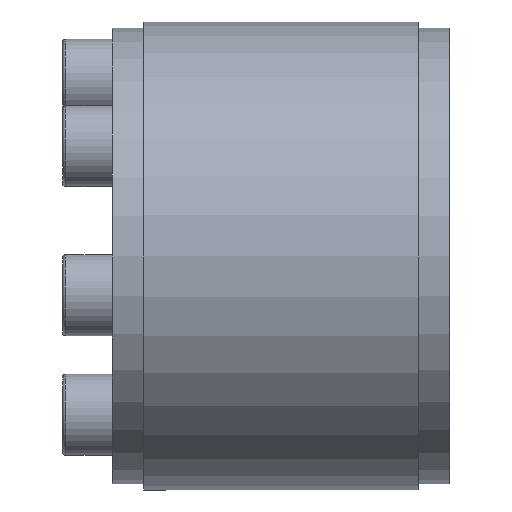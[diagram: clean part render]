
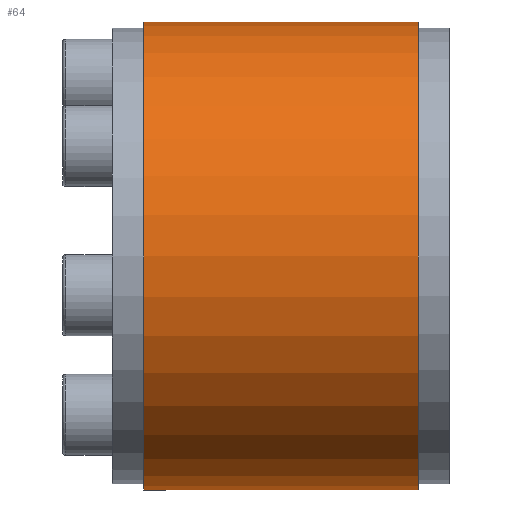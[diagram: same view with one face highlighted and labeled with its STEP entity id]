
A CAD part, left-side view. The second image highlights one B-rep face of the part: STEP entity #64.
In plain terms, the highlighted cylindrical face has radius 37.5 mm (diameter 75 mm), a partial arc.
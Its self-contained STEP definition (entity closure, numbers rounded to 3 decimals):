
#24 = ORIENTED_EDGE ( 'NONE', *, *, #1848, .F. ) ;
#64 = ADVANCED_FACE ( 'NONE', ( #1460 ), #1088, .T. ) ;
#176 = EDGE_CURVE ( 'NONE', #1580, #1069, #1134, .T. ) ;
#194 = DIRECTION ( 'NONE',  ( 0., -1., 0. ) ) ;
#219 = VERTEX_POINT ( 'NONE', #293 ) ;
#255 = VERTEX_POINT ( 'NONE', #1768 ) ;
#264 = AXIS2_PLACEMENT_3D ( 'NONE', #407, #2558, #859 ) ;
#286 = ORIENTED_EDGE ( 'NONE', *, *, #176, .T. ) ;
#293 = CARTESIAN_POINT ( 'NONE',  ( 0., 22., 37.5 ) ) ;
#331 = AXIS2_PLACEMENT_3D ( 'NONE', #2776, #194, #2559 ) ;
#387 = CARTESIAN_POINT ( 'NONE',  ( 0., 0., 37.5 ) ) ;
#396 = ORIENTED_EDGE ( 'NONE', *, *, #656, .T. ) ;
#407 = CARTESIAN_POINT ( 'NONE',  ( 0., -22., 0. ) ) ;
#480 = CIRCLE ( 'NONE', #264, 37.5 ) ;
#624 = EDGE_CURVE ( 'NONE', #219, #255, #1308, .T. ) ;
#656 = EDGE_CURVE ( 'NONE', #219, #1580, #2242, .T. ) ;
#810 = EDGE_LOOP ( 'NONE', ( #1893, #396, #286, #24 ) ) ;
#859 = DIRECTION ( 'NONE',  ( 0., 0., -1. ) ) ;
#898 = DIRECTION ( 'NONE',  ( 0., -1., 0. ) ) ;
#988 = CARTESIAN_POINT ( 'NONE',  ( 0., 22., -37.5 ) ) ;
#1014 = DIRECTION ( 'NONE',  ( 0., -1., 0. ) ) ;
#1069 = VERTEX_POINT ( 'NONE', #1826 ) ;
#1088 = CYLINDRICAL_SURFACE ( 'NONE', #1256, 37.5 ) ;
#1134 = LINE ( 'NONE', #2363, #2783 ) ;
#1256 = AXIS2_PLACEMENT_3D ( 'NONE', #2327, #1923, #1941 ) ;
#1308 = LINE ( 'NONE', #387, #2447 ) ;
#1460 = FACE_OUTER_BOUND ( 'NONE', #810, .T. ) ;
#1580 = VERTEX_POINT ( 'NONE', #988 ) ;
#1768 = CARTESIAN_POINT ( 'NONE',  ( 0., -22., 37.5 ) ) ;
#1826 = CARTESIAN_POINT ( 'NONE',  ( 0., -22., -37.5 ) ) ;
#1848 = EDGE_CURVE ( 'NONE', #255, #1069, #480, .T. ) ;
#1893 = ORIENTED_EDGE ( 'NONE', *, *, #624, .F. ) ;
#1923 = DIRECTION ( 'NONE',  ( 0., -1., 0. ) ) ;
#1941 = DIRECTION ( 'NONE',  ( 0., 0., -1. ) ) ;
#2242 = CIRCLE ( 'NONE', #331, 37.5 ) ;
#2327 = CARTESIAN_POINT ( 'NONE',  ( 0., 0., 0. ) ) ;
#2363 = CARTESIAN_POINT ( 'NONE',  ( 0., 0., -37.5 ) ) ;
#2447 = VECTOR ( 'NONE', #1014, 1000. ) ;
#2558 = DIRECTION ( 'NONE',  ( 0., -1., 0. ) ) ;
#2559 = DIRECTION ( 'NONE',  ( 0., 0., -1. ) ) ;
#2776 = CARTESIAN_POINT ( 'NONE',  ( 0., 22., 0. ) ) ;
#2783 = VECTOR ( 'NONE', #898, 1000. ) ;
